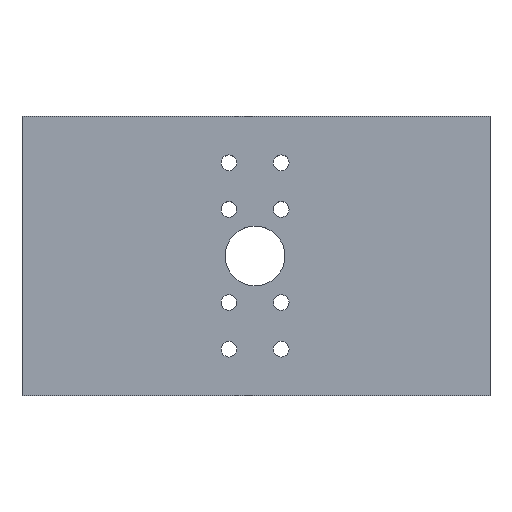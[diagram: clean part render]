
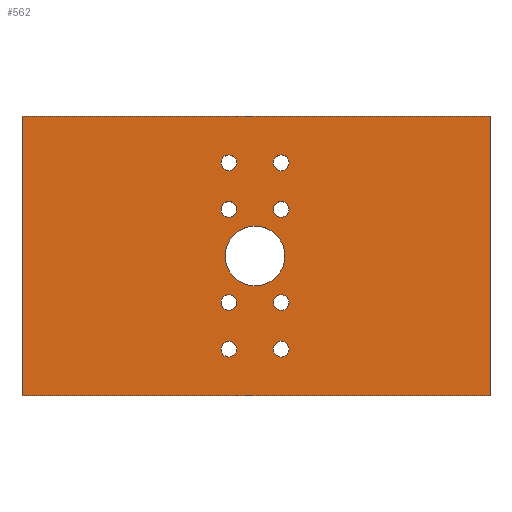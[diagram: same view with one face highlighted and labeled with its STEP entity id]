
A CAD part, top view. The second image highlights one B-rep face of the part: STEP entity #562.
In plain terms, the highlighted planar face has unit normal (0, 0, 1).
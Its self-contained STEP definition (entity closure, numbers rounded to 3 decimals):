
#25=FACE_BOUND('',#138,.T.);
#26=FACE_BOUND('',#139,.T.);
#27=FACE_BOUND('',#140,.T.);
#28=FACE_BOUND('',#141,.T.);
#29=FACE_BOUND('',#142,.T.);
#30=FACE_BOUND('',#143,.T.);
#31=FACE_BOUND('',#144,.T.);
#32=FACE_BOUND('',#145,.T.);
#33=FACE_BOUND('',#146,.T.);
#57=PLANE('',#649);
#92=FACE_OUTER_BOUND('',#137,.T.);
#137=EDGE_LOOP('',(#484,#485,#486,#487));
#138=EDGE_LOOP('',(#488));
#139=EDGE_LOOP('',(#489));
#140=EDGE_LOOP('',(#490));
#141=EDGE_LOOP('',(#491));
#142=EDGE_LOOP('',(#492));
#143=EDGE_LOOP('',(#493));
#144=EDGE_LOOP('',(#494));
#145=EDGE_LOOP('',(#495));
#146=EDGE_LOOP('',(#496));
#178=LINE('',#962,#209);
#181=LINE('',#968,#212);
#184=LINE('',#974,#215);
#187=LINE('',#978,#218);
#209=VECTOR('',#810,10.);
#212=VECTOR('',#815,10.);
#215=VECTOR('',#820,10.);
#218=VECTOR('',#825,10.);
#239=CIRCLE('',#619,2.1);
#241=CIRCLE('',#622,2.1);
#243=CIRCLE('',#625,2.1);
#245=CIRCLE('',#628,2.1);
#247=CIRCLE('',#631,2.1);
#249=CIRCLE('',#634,2.1);
#251=CIRCLE('',#637,2.1);
#253=CIRCLE('',#640,8.);
#255=CIRCLE('',#643,2.1);
#277=VERTEX_POINT('',#902);
#279=VERTEX_POINT('',#908);
#281=VERTEX_POINT('',#914);
#283=VERTEX_POINT('',#920);
#285=VERTEX_POINT('',#926);
#287=VERTEX_POINT('',#932);
#289=VERTEX_POINT('',#938);
#291=VERTEX_POINT('',#944);
#293=VERTEX_POINT('',#950);
#297=VERTEX_POINT('',#959);
#298=VERTEX_POINT('',#961);
#300=VERTEX_POINT('',#967);
#302=VERTEX_POINT('',#973);
#333=EDGE_CURVE('',#277,#277,#239,.T.);
#336=EDGE_CURVE('',#279,#279,#241,.T.);
#339=EDGE_CURVE('',#281,#281,#243,.T.);
#342=EDGE_CURVE('',#283,#283,#245,.T.);
#345=EDGE_CURVE('',#285,#285,#247,.T.);
#348=EDGE_CURVE('',#287,#287,#249,.T.);
#351=EDGE_CURVE('',#289,#289,#251,.T.);
#354=EDGE_CURVE('',#291,#291,#253,.T.);
#357=EDGE_CURVE('',#293,#293,#255,.T.);
#362=EDGE_CURVE('',#298,#297,#178,.T.);
#365=EDGE_CURVE('',#300,#298,#181,.T.);
#368=EDGE_CURVE('',#302,#300,#184,.T.);
#371=EDGE_CURVE('',#297,#302,#187,.T.);
#484=ORIENTED_EDGE('',*,*,#371,.T.);
#485=ORIENTED_EDGE('',*,*,#368,.T.);
#486=ORIENTED_EDGE('',*,*,#365,.T.);
#487=ORIENTED_EDGE('',*,*,#362,.T.);
#488=ORIENTED_EDGE('',*,*,#357,.T.);
#489=ORIENTED_EDGE('',*,*,#354,.T.);
#490=ORIENTED_EDGE('',*,*,#351,.T.);
#491=ORIENTED_EDGE('',*,*,#348,.T.);
#492=ORIENTED_EDGE('',*,*,#345,.T.);
#493=ORIENTED_EDGE('',*,*,#342,.T.);
#494=ORIENTED_EDGE('',*,*,#339,.T.);
#495=ORIENTED_EDGE('',*,*,#336,.T.);
#496=ORIENTED_EDGE('',*,*,#333,.T.);
#562=ADVANCED_FACE('',(#92,#25,#26,#27,#28,#29,#30,#31,#32,#33),#57,.T.);
#619=AXIS2_PLACEMENT_3D('',#903,#745,#746);
#622=AXIS2_PLACEMENT_3D('',#909,#752,#753);
#625=AXIS2_PLACEMENT_3D('',#915,#759,#760);
#628=AXIS2_PLACEMENT_3D('',#921,#766,#767);
#631=AXIS2_PLACEMENT_3D('',#927,#773,#774);
#634=AXIS2_PLACEMENT_3D('',#933,#780,#781);
#637=AXIS2_PLACEMENT_3D('',#939,#787,#788);
#640=AXIS2_PLACEMENT_3D('',#945,#794,#795);
#643=AXIS2_PLACEMENT_3D('',#951,#801,#802);
#649=AXIS2_PLACEMENT_3D('',#979,#826,#827);
#745=DIRECTION('center_axis',(0.,0.,-1.));
#746=DIRECTION('ref_axis',(1.,0.,0.));
#752=DIRECTION('center_axis',(0.,0.,-1.));
#753=DIRECTION('ref_axis',(1.,0.,0.));
#759=DIRECTION('center_axis',(0.,0.,-1.));
#760=DIRECTION('ref_axis',(1.,0.,0.));
#766=DIRECTION('center_axis',(0.,0.,-1.));
#767=DIRECTION('ref_axis',(1.,0.,0.));
#773=DIRECTION('center_axis',(0.,0.,-1.));
#774=DIRECTION('ref_axis',(1.,0.,0.));
#780=DIRECTION('center_axis',(0.,0.,-1.));
#781=DIRECTION('ref_axis',(1.,0.,0.));
#787=DIRECTION('center_axis',(0.,0.,-1.));
#788=DIRECTION('ref_axis',(1.,0.,0.));
#794=DIRECTION('center_axis',(0.,0.,-1.));
#795=DIRECTION('ref_axis',(1.,0.,0.));
#801=DIRECTION('center_axis',(0.,0.,-1.));
#802=DIRECTION('ref_axis',(1.,0.,0.));
#810=DIRECTION('',(-1.,0.,0.));
#815=DIRECTION('',(0.,1.,0.));
#820=DIRECTION('',(1.,0.,0.));
#825=DIRECTION('',(0.,-1.,0.));
#826=DIRECTION('center_axis',(0.,0.,1.));
#827=DIRECTION('ref_axis',(1.,0.,0.));
#902=CARTESIAN_POINT('',(53.4,62.5,12.));
#903=CARTESIAN_POINT('Origin',(55.5,62.5,12.));
#908=CARTESIAN_POINT('',(67.4,62.5,12.));
#909=CARTESIAN_POINT('Origin',(69.5,62.5,12.));
#914=CARTESIAN_POINT('',(67.4,25.,12.));
#915=CARTESIAN_POINT('Origin',(69.5,25.,12.));
#920=CARTESIAN_POINT('',(67.4,12.5,12.));
#921=CARTESIAN_POINT('Origin',(69.5,12.5,12.));
#926=CARTESIAN_POINT('',(53.4,50.,12.));
#927=CARTESIAN_POINT('Origin',(55.5,50.,12.));
#932=CARTESIAN_POINT('',(67.4,50.,12.));
#933=CARTESIAN_POINT('Origin',(69.5,50.,12.));
#938=CARTESIAN_POINT('',(53.4,12.5,12.));
#939=CARTESIAN_POINT('Origin',(55.5,12.5,12.));
#944=CARTESIAN_POINT('',(54.5,37.5,12.));
#945=CARTESIAN_POINT('Origin',(62.5,37.5,12.));
#950=CARTESIAN_POINT('',(53.4,25.,12.));
#951=CARTESIAN_POINT('Origin',(55.5,25.,12.));
#959=CARTESIAN_POINT('',(0.,75.,12.));
#961=CARTESIAN_POINT('',(125.5,75.,12.));
#962=CARTESIAN_POINT('',(125.5,75.,12.));
#967=CARTESIAN_POINT('',(125.5,0.,12.));
#968=CARTESIAN_POINT('',(125.5,0.,12.));
#973=CARTESIAN_POINT('',(0.,0.,12.));
#974=CARTESIAN_POINT('',(0.,0.,12.));
#978=CARTESIAN_POINT('',(0.,75.,12.));
#979=CARTESIAN_POINT('Origin',(62.75,37.5,12.));
